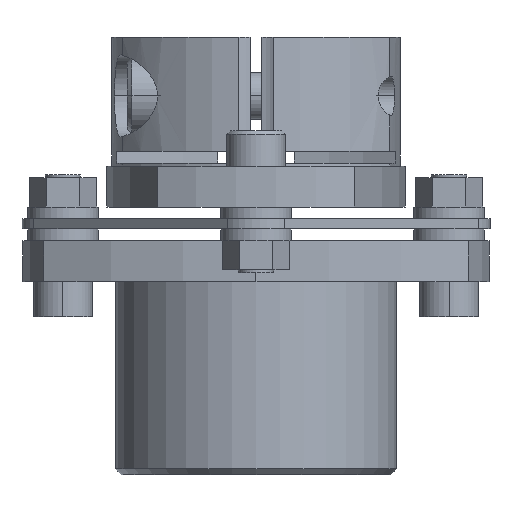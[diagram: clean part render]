
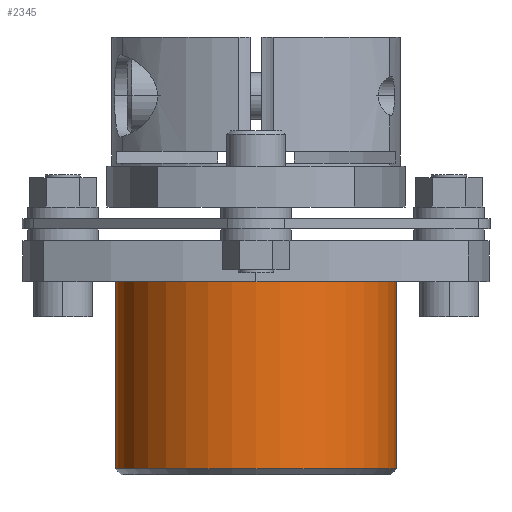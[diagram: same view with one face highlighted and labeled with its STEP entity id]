
A CAD part, front view. The second image highlights one B-rep face of the part: STEP entity #2345.
In plain terms, the highlighted cylindrical face has radius 24 mm (diameter 48 mm), a partial arc.
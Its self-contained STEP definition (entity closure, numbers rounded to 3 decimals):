
#2304=CARTESIAN_POINT('',(0.,0.,-22.875));
#2305=DIRECTION('',(0.0,0.0,1.0));
#2306=DIRECTION('',(-1.0,0.,0.0));
#2307=AXIS2_PLACEMENT_3D('',#2304,#2305,#2306);
#2308=CYLINDRICAL_SURFACE('',#2307,24.0);
#2309=CARTESIAN_POINT('',(-24.,0.,-41.875));
#2310=VERTEX_POINT('',#2309);
#2311=CARTESIAN_POINT('',(-24.,0.,-9.875));
#2312=VERTEX_POINT('',#2311);
#2313=CARTESIAN_POINT('',(-24.,0.,-41.875));
#2314=DIRECTION('',(0.0,0.0,1.0));
#2315=VECTOR('',#2314,32.0);
#2316=LINE('',#2313,#2315);
#2317=EDGE_CURVE('',#2310,#2312,#2316,.T.);
#2318=ORIENTED_EDGE('',*,*,#2317,.F.);
#2319=CARTESIAN_POINT('',(24.,0.,-41.875));
#2320=VERTEX_POINT('',#2319);
#2321=CARTESIAN_POINT('',(0.,0.,-41.875));
#2322=DIRECTION('',(0.0,0.0,-1.0));
#2323=DIRECTION('',(1.0,0.,0.0));
#2324=AXIS2_PLACEMENT_3D('',#2321,#2322,#2323);
#2325=CIRCLE('',#2324,24.0);
#2326=EDGE_CURVE('',#2320,#2310,#2325,.T.);
#2327=ORIENTED_EDGE('',*,*,#2326,.F.);
#2328=CARTESIAN_POINT('',(24.,0.,-9.875));
#2329=VERTEX_POINT('',#2328);
#2330=CARTESIAN_POINT('',(24.,0.,-9.875));
#2331=DIRECTION('',(0.0,0.0,-1.0));
#2332=VECTOR('',#2331,32.0);
#2333=LINE('',#2330,#2332);
#2334=EDGE_CURVE('',#2329,#2320,#2333,.T.);
#2335=ORIENTED_EDGE('',*,*,#2334,.F.);
#2336=CARTESIAN_POINT('',(0.,0.,-9.875));
#2337=DIRECTION('',(0.0,0.0,1.0));
#2338=DIRECTION('',(-1.0,0.,0.0));
#2339=AXIS2_PLACEMENT_3D('',#2336,#2337,#2338);
#2340=CIRCLE('',#2339,24.0);
#2341=EDGE_CURVE('',#2312,#2329,#2340,.T.);
#2342=ORIENTED_EDGE('',*,*,#2341,.F.);
#2343=EDGE_LOOP('',(#2318,#2327,#2335,#2342));
#2344=FACE_OUTER_BOUND('',#2343,.T.);
#2345=ADVANCED_FACE('',(#2344),#2308,.T.);
